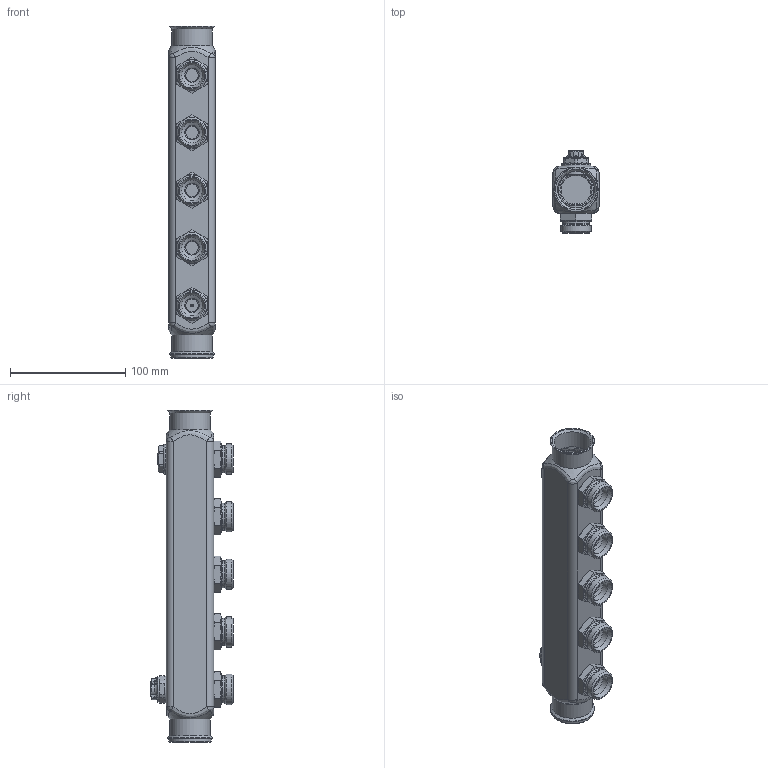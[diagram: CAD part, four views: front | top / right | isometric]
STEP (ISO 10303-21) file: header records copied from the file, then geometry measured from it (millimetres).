
FILE_DESCRIPTION(('STEP AP203'), '1');
FILE_NAME('VTc.505.SQ.060505', '2026-02-20T10:33:25', ('verevichevva'), ('Vesta'), 'C3D Converter', 'C3D Toolkit', '');
FILE_SCHEMA(('CONFIG_CONTROL_DESIGN'));
Length unit declared in the file: millimetre
Products named in the file (17): ВР.622621.186.000 СБ; ВР.735224.068-03; ВР.305364.002.000 СБ; ВР.712725.002; ВР.622621.022.003 СБ; ВР.753125.016; ВР.305319.012.000 СБ; ВР.305319.012.001 СБ; ВР.753128.045; ВР.753163.001; ВР.758116.001; ВР.302638.005.000 СБ; ВР.753137.038
Assembly tree (20 placements, depth 4):
  ВР.622621.186.000 СБ
    ВР.735224.068-03
    ВР.305364.002.000 СБ
      ВР.712725.002
      (unnamed)
    ВР.622621.022.003 СБ
      ВР.753125.016
      (unnamed)
    ВР.305319.012.000 СБ
      ВР.305319.012.001 СБ
        ВР.753128.045
        (unnamed)
      ВР.753163.001
      ВР.758116.001
    ВР.302638.005.000 СБ  x5
      ВР.753137.038
      (unnamed)
Bounding box: 40 x 71.6 x 288.5 mm (x, y, z)
Volume: 119128.1 mm3; surface area: 120541.3 mm2
Topology: 19 solids, 19 shells, 859 faces, 2082 edges, 1293 vertices
Faces by surface type: plane 324, cone 148, cylinder 129, extrusion 118, bspline 72, torus 68
Full cylindrical faces by diameter (mm): 1.6 x1, 2.3 x1, 3.4 x1, 4.134 x1, 5 x1, 5.3 x1, 6.3 x2, 9.6 x1, 10.2 x1, 11 x5, 12.5 x5, 13 x1, 14 x1, 15.7 x1, 18 x6, 18.1 x5, 18.5 x1, 19 x7, 19.5 x2, 20 x1, 20.955 x7, 22 x1, 22.2 x7, 23 x1, 23.5 x5, 24 x1, 25.5 x1, 26 x1, 26.441 x5, 28 x1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
Entity records: 30119 total; most frequent: CARTESIAN_POINT 14512, ORIENTED_EDGE 3144, DIRECTION 2488, EDGE_CURVE 1572, VERTEX_POINT 1066, EDGE_LOOP 862, AXIS2_PLACEMENT_3D 830, VECTOR 828
